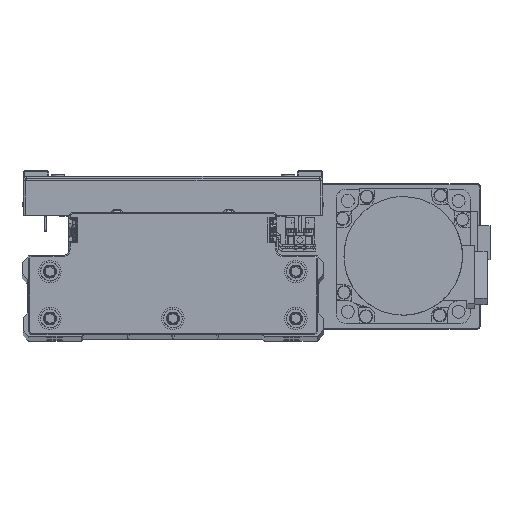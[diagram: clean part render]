
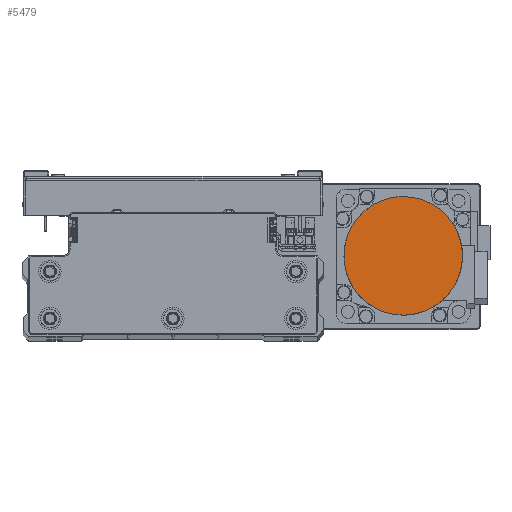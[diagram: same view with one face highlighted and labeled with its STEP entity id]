
A CAD part, top view. The second image highlights one B-rep face of the part: STEP entity #5479.
In plain terms, the highlighted planar face has unit normal (0, 0, 1) as drawn and (0, 0, -1) by its records, which use the part's own axes.
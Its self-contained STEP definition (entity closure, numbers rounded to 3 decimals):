
#100 = CARTESIAN_POINT ( 'NONE',  ( -21.07, 16.165, -109.7 ) ) ;
#779 = CARTESIAN_POINT ( 'NONE',  ( -23.819, -11.744, -109.7 ) ) ;
#1000 = CARTESIAN_POINT ( 'NONE',  ( 3.469, -26.329, -109.7 ) ) ;
#1220 = CARTESIAN_POINT ( 'NONE',  ( 26.329, -3.469, -109.7 ) ) ;
#3264 = CARTESIAN_POINT ( 'NONE',  ( 16.165, 21.07, -109.7 ) ) ;
#3474 = CARTESIAN_POINT ( 'NONE',  ( -16.165, 21.07, -109.7 ) ) ;
#4158 = CARTESIAN_POINT ( 'NONE',  ( -26.329, -3.469, -109.7 ) ) ;
#4393 = CARTESIAN_POINT ( 'NONE',  ( -3.469, -26.329, -109.7 ) ) ;
#4611 = CARTESIAN_POINT ( 'NONE',  ( 23.819, -11.744, -109.7 ) ) ;
#5479 = ADVANCED_FACE ( 'NONE', ( #30732 ), #44477, .F. ) ;
#6656 = CARTESIAN_POINT ( 'NONE',  ( 21.07, 16.165, -109.7 ) ) ;
#6869 = CARTESIAN_POINT ( 'NONE',  ( -8.539, 25.147, -109.7 ) ) ;
#7080 = CARTESIAN_POINT ( 'NONE',  ( -26.5, 0., -109.7 ) ) ;
#7771 = CARTESIAN_POINT ( 'NONE',  ( -11.744, -23.819, -109.7 ) ) ;
#7999 = CARTESIAN_POINT ( 'NONE',  ( 19.965, -17.512, -109.7 ) ) ;
#8472 = B_SPLINE_CURVE_WITH_KNOTS ( 'NONE', 3,
 ( #44337, #13423, #27186, #40946, #10048, #23795, #37555, #6656, #20420, #34170, #3264, #17023, #30795, #44551, #13644, #27416, #41177, #10274, #24018, #37773, #6869, #20639, #34381, #3474, #17245, #31019, #100, #13868, #27635, #41395, #10489, #24231, #37991, #7080 ),
 .UNSPECIFIED., .F., .F.,
 ( 4, 2, 2, 2, 2, 2, 2, 2, 2, 2, 2, 2, 2, 2, 2, 2, 4 ),
 ( 0., 0.062, 0.125, 0.187, 0.25, 0.312, 0.375, 0.437, 0.5, 0.562, 0.625, 0.687, 0.75, 0.813, 0.875, 0.938, 1. ),
 .UNSPECIFIED. ) ;
#10048 = CARTESIAN_POINT ( 'NONE',  ( 25.147, 8.539, -109.7 ) ) ;
#10274 = CARTESIAN_POINT ( 'NONE',  ( -1.734, 26.5, -109.7 ) ) ;
#10489 = CARTESIAN_POINT ( 'NONE',  ( -25.652, 6.871, -109.7 ) ) ;
#11180 = CARTESIAN_POINT ( 'NONE',  ( -17.512, -19.965, -109.7 ) ) ;
#11402 = CARTESIAN_POINT ( 'NONE',  ( 13.28, -22.998, -109.7 ) ) ;
#11589 = AXIS2_PLACEMENT_3D ( 'NONE', #13563, #27332, #41101 ) ;
#12743 = ORIENTED_EDGE ( 'NONE', *, *, #21897, .F. ) ;
#13423 = CARTESIAN_POINT ( 'NONE',  ( 26.5, 1.734, -109.7 ) ) ;
#13563 = CARTESIAN_POINT ( 'NONE',  ( 0., 0., -109.7 ) ) ;
#13644 = CARTESIAN_POINT ( 'NONE',  ( 6.871, 25.652, -109.7 ) ) ;
#13868 = CARTESIAN_POINT ( 'NONE',  ( -22.998, 13.28, -109.7 ) ) ;
#14314 = CARTESIAN_POINT ( 'NONE',  ( 26.5, 0., -109.7 ) ) ;
#14548 = CARTESIAN_POINT ( 'NONE',  ( -22.998, -13.28, -109.7 ) ) ;
#14761 = CARTESIAN_POINT ( 'NONE',  ( 6.871, -25.652, -109.7 ) ) ;
#14979 = CARTESIAN_POINT ( 'NONE',  ( 26.5, -1.734, -109.7 ) ) ;
#17023 = CARTESIAN_POINT ( 'NONE',  ( 13.28, 22.998, -109.7 ) ) ;
#17245 = CARTESIAN_POINT ( 'NONE',  ( -17.512, 19.965, -109.7 ) ) ;
#17922 = CARTESIAN_POINT ( 'NONE',  ( -25.652, -6.871, -109.7 ) ) ;
#18152 = CARTESIAN_POINT ( 'NONE',  ( -1.734, -26.5, -109.7 ) ) ;
#18368 = CARTESIAN_POINT ( 'NONE',  ( 25.147, -8.539, -109.7 ) ) ;
#19396 = EDGE_CURVE ( 'NONE', #19781, #28840, #43005, .T. ) ;
#19781 = VERTEX_POINT ( 'NONE', #34575 ) ;
#20420 = CARTESIAN_POINT ( 'NONE',  ( 19.965, 17.512, -109.7 ) ) ;
#20430 = ORIENTED_EDGE ( 'NONE', *, *, #19396, .F. ) ;
#20639 = CARTESIAN_POINT ( 'NONE',  ( -11.744, 23.819, -109.7 ) ) ;
#21323 = CARTESIAN_POINT ( 'NONE',  ( -26.5, 0., -109.7 ) ) ;
#21537 = CARTESIAN_POINT ( 'NONE',  ( -8.539, -25.147, -109.7 ) ) ;
#21767 = CARTESIAN_POINT ( 'NONE',  ( 21.07, -16.165, -109.7 ) ) ;
#21897 = EDGE_CURVE ( 'NONE', #28840, #19781, #8472, .T. ) ;
#23795 = CARTESIAN_POINT ( 'NONE',  ( 23.819, 11.744, -109.7 ) ) ;
#24018 = CARTESIAN_POINT ( 'NONE',  ( -3.469, 26.329, -109.7 ) ) ;
#24231 = CARTESIAN_POINT ( 'NONE',  ( -26.329, 3.469, -109.7 ) ) ;
#24924 = CARTESIAN_POINT ( 'NONE',  ( -16.165, -21.07, -109.7 ) ) ;
#25143 = CARTESIAN_POINT ( 'NONE',  ( 16.165, -21.07, -109.7 ) ) ;
#27186 = CARTESIAN_POINT ( 'NONE',  ( 26.329, 3.469, -109.7 ) ) ;
#27332 = DIRECTION ( 'NONE',  ( 0., 0., 1. ) ) ;
#27416 = CARTESIAN_POINT ( 'NONE',  ( 3.469, 26.329, -109.7 ) ) ;
#27635 = CARTESIAN_POINT ( 'NONE',  ( -23.819, 11.744, -109.7 ) ) ;
#28318 = CARTESIAN_POINT ( 'NONE',  ( -21.07, -16.165, -109.7 ) ) ;
#28542 = CARTESIAN_POINT ( 'NONE',  ( 8.539, -25.147, -109.7 ) ) ;
#28762 = CARTESIAN_POINT ( 'NONE',  ( 26.5, 0., -109.7 ) ) ;
#28840 = VERTEX_POINT ( 'NONE', #14314 ) ;
#30732 = FACE_OUTER_BOUND ( 'NONE', #42358, .T. ) ;
#30795 = CARTESIAN_POINT ( 'NONE',  ( 11.744, 23.819, -109.7 ) ) ;
#31019 = CARTESIAN_POINT ( 'NONE',  ( -19.965, 17.512, -109.7 ) ) ;
#31696 = CARTESIAN_POINT ( 'NONE',  ( -25.147, -8.539, -109.7 ) ) ;
#31929 = CARTESIAN_POINT ( 'NONE',  ( 1.734, -26.5, -109.7 ) ) ;
#32142 = CARTESIAN_POINT ( 'NONE',  ( 25.652, -6.871, -109.7 ) ) ;
#34170 = CARTESIAN_POINT ( 'NONE',  ( 17.512, 19.965, -109.7 ) ) ;
#34381 = CARTESIAN_POINT ( 'NONE',  ( -13.28, 22.998, -109.7 ) ) ;
#34575 = CARTESIAN_POINT ( 'NONE',  ( -26.5, 0., -109.7 ) ) ;
#35069 = CARTESIAN_POINT ( 'NONE',  ( -26.5, -1.734, -109.7 ) ) ;
#35296 = CARTESIAN_POINT ( 'NONE',  ( -6.871, -25.652, -109.7 ) ) ;
#35521 = CARTESIAN_POINT ( 'NONE',  ( 22.998, -13.28, -109.7 ) ) ;
#37555 = CARTESIAN_POINT ( 'NONE',  ( 22.998, 13.28, -109.7 ) ) ;
#37773 = CARTESIAN_POINT ( 'NONE',  ( -6.871, 25.652, -109.7 ) ) ;
#37991 = CARTESIAN_POINT ( 'NONE',  ( -26.5, 1.734, -109.7 ) ) ;
#38686 = CARTESIAN_POINT ( 'NONE',  ( -13.28, -22.998, -109.7 ) ) ;
#38905 = CARTESIAN_POINT ( 'NONE',  ( 17.512, -19.965, -109.7 ) ) ;
#40946 = CARTESIAN_POINT ( 'NONE',  ( 25.652, 6.871, -109.7 ) ) ;
#41101 = DIRECTION ( 'NONE',  ( 1., 0., 0. ) ) ;
#41177 = CARTESIAN_POINT ( 'NONE',  ( 1.734, 26.5, -109.7 ) ) ;
#41395 = CARTESIAN_POINT ( 'NONE',  ( -25.147, 8.539, -109.7 ) ) ;
#42075 = CARTESIAN_POINT ( 'NONE',  ( -19.965, -17.512, -109.7 ) ) ;
#42289 = CARTESIAN_POINT ( 'NONE',  ( 11.744, -23.819, -109.7 ) ) ;
#42358 = EDGE_LOOP ( 'NONE', ( #12743, #20430 ) ) ;
#43005 = B_SPLINE_CURVE_WITH_KNOTS ( 'NONE', 3,
 ( #21323, #35069, #4158, #17922, #31696, #779, #14548, #28318, #42075, #11180, #24924, #38686, #7771, #21537, #35296, #4393, #18152, #31929, #1000, #14761, #28542, #42289, #11402, #25143, #38905, #7999, #21767, #35521, #4611, #18368, #32142, #1220, #14979, #28762 ),
 .UNSPECIFIED., .F., .F.,
 ( 4, 2, 2, 2, 2, 2, 2, 2, 2, 2, 2, 2, 2, 2, 2, 2, 4 ),
 ( 0., 0.063, 0.125, 0.188, 0.25, 0.312, 0.375, 0.437, 0.5, 0.562, 0.625, 0.687, 0.75, 0.813, 0.875, 0.938, 1. ),
 .UNSPECIFIED. ) ;
#44337 = CARTESIAN_POINT ( 'NONE',  ( 26.5, 0., -109.7 ) ) ;
#44477 = PLANE ( 'NONE',  #11589 ) ;
#44551 = CARTESIAN_POINT ( 'NONE',  ( 8.539, 25.147, -109.7 ) ) ;
